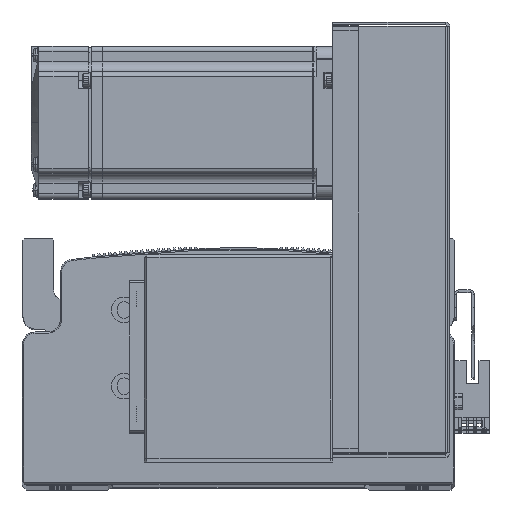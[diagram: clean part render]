
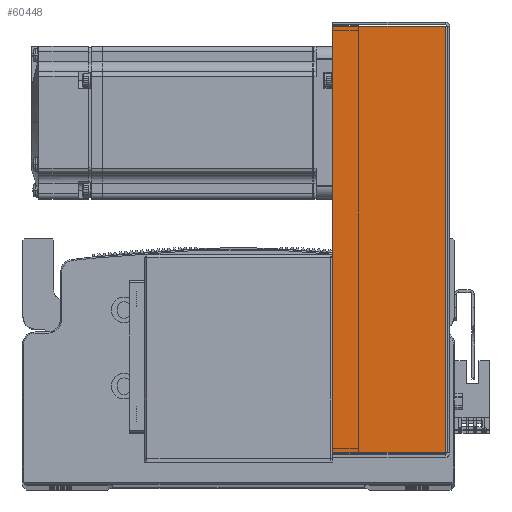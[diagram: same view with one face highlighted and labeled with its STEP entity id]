
A CAD part, top view. The second image highlights one B-rep face of the part: STEP entity #60448.
In plain terms, the highlighted planar face has unit normal (0, 0, 1).
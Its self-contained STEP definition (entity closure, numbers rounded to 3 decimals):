
#12375 = EDGE_LOOP ( 'NONE', ( #63381, #63433, #63500, #63442 ) ) ;
#19654 = DIRECTION ( 'NONE',  ( 0., 1., 0. ) ) ;
#19725 = CARTESIAN_POINT ( 'NONE',  ( -83.793, 0., 40.5 ) ) ;
#19788 = CARTESIAN_POINT ( 'NONE',  ( 0., 0.737, 40.5 ) ) ;
#19790 = DIRECTION ( 'NONE',  ( -1., 0., 0. ) ) ;
#19881 = DIRECTION ( 'NONE',  ( 0., 1., 0. ) ) ;
#19899 = CARTESIAN_POINT ( 'NONE',  ( 83.793, 0., 40.5 ) ) ;
#19918 = CARTESIAN_POINT ( 'NONE',  ( -84.5, 45., 40.5 ) ) ;
#19920 = DIRECTION ( 'NONE',  ( -1., 0., 0. ) ) ;
#28097 = LINE ( 'NONE', #19725, #28119 ) ;
#28119 = VECTOR ( 'NONE', #19654, 1000. ) ;
#28133 = LINE ( 'NONE', #19788, #28136 ) ;
#28136 = VECTOR ( 'NONE', #19790, 1000. ) ;
#28146 = LINE ( 'NONE', #19899, #28202 ) ;
#28158 = LINE ( 'NONE', #19918, #28180 ) ;
#28180 = VECTOR ( 'NONE', #19920, 1000. ) ;
#28202 = VECTOR ( 'NONE', #19881, 1000. ) ;
#30920 = CARTESIAN_POINT ( 'NONE',  ( 83.793, 0.737, 40.5 ) ) ;
#30976 = CARTESIAN_POINT ( 'NONE',  ( -83.793, 45., 40.5 ) ) ;
#31015 = CARTESIAN_POINT ( 'NONE',  ( -83.793, 0.737, 40.5 ) ) ;
#31026 = CARTESIAN_POINT ( 'NONE',  ( 83.793, 45., 40.5 ) ) ;
#59118 = DIRECTION ( 'NONE',  ( -1., 0., 0. ) ) ;
#59123 = CARTESIAN_POINT ( 'NONE',  ( 0., 0., 40.5 ) ) ;
#59132 = PLANE ( 'NONE',  #67525 ) ;
#59144 = DIRECTION ( 'NONE',  ( 0., 0., -1. ) ) ;
#60448 = ADVANCED_FACE ( 'NONE', ( #75152 ), #59132, .F. ) ;
#62308 = VERTEX_POINT ( 'NONE', #30976 ) ;
#62325 = VERTEX_POINT ( 'NONE', #31015 ) ;
#62343 = VERTEX_POINT ( 'NONE', #30920 ) ;
#62350 = VERTEX_POINT ( 'NONE', #31026 ) ;
#63381 = ORIENTED_EDGE ( 'NONE', *, *, #70314, .F. ) ;
#63433 = ORIENTED_EDGE ( 'NONE', *, *, #70340, .T. ) ;
#63442 = ORIENTED_EDGE ( 'NONE', *, *, #70280, .F. ) ;
#63500 = ORIENTED_EDGE ( 'NONE', *, *, #70351, .T. ) ;
#67525 = AXIS2_PLACEMENT_3D ( 'NONE', #59123, #59144, #59118 ) ;
#70280 = EDGE_CURVE ( 'NONE', #62325, #62308, #28097, .T. ) ;
#70314 = EDGE_CURVE ( 'NONE', #62343, #62325, #28133, .T. ) ;
#70340 = EDGE_CURVE ( 'NONE', #62343, #62350, #28146, .T. ) ;
#70351 = EDGE_CURVE ( 'NONE', #62350, #62308, #28158, .T. ) ;
#75152 = FACE_OUTER_BOUND ( 'NONE', #12375, .T. ) ;
